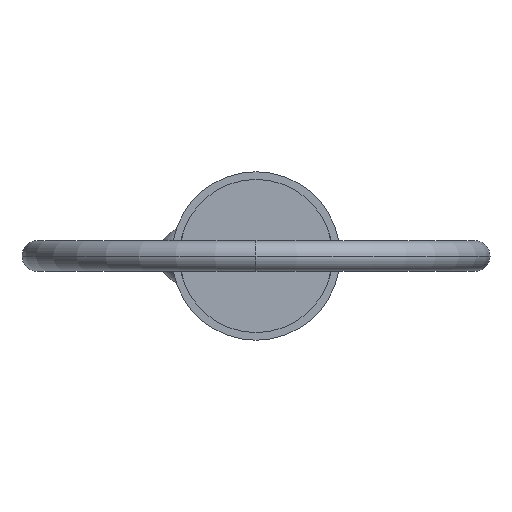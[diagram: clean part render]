
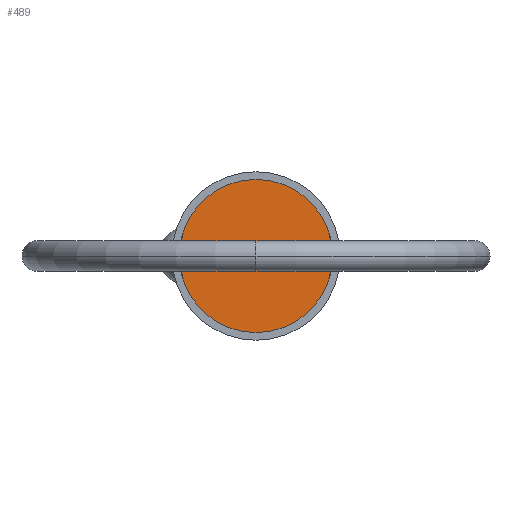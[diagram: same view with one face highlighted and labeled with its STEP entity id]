
A CAD part, left-side view. The second image highlights one B-rep face of the part: STEP entity #489.
In plain terms, the highlighted planar face has unit normal (-1, 0, 0).
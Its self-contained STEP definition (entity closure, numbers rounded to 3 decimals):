
#11 = CIRCLE ( 'NONE', #188, 11.115 ) ;
#36 = DIRECTION ( 'NONE',  ( 0., 0., -1. ) ) ;
#45 = CARTESIAN_POINT ( 'NONE',  ( 0., 0., 0. ) ) ;
#104 = FACE_OUTER_BOUND ( 'NONE', #244, .T. ) ;
#130 = DIRECTION ( 'NONE',  ( -1., 0., 0. ) ) ;
#149 = DIRECTION ( 'NONE',  ( 0., 0., -1. ) ) ;
#188 = AXIS2_PLACEMENT_3D ( 'NONE', #45, #201, #36 ) ;
#201 = DIRECTION ( 'NONE',  ( 1., 0., 0. ) ) ;
#232 = VERTEX_POINT ( 'NONE', #338 ) ;
#244 = EDGE_LOOP ( 'NONE', ( #973, #985 ) ) ;
#338 = CARTESIAN_POINT ( 'NONE',  ( 0., 0., 11.115 ) ) ;
#374 = CARTESIAN_POINT ( 'NONE',  ( 0., 0., -11.115 ) ) ;
#376 = CARTESIAN_POINT ( 'NONE',  ( 0., 0., 0. ) ) ;
#413 = AXIS2_PLACEMENT_3D ( 'NONE', #1056, #977, #149 ) ;
#438 = PLANE ( 'NONE',  #616 ) ;
#489 = ADVANCED_FACE ( 'NONE', ( #104 ), #438, .T. ) ;
#616 = AXIS2_PLACEMENT_3D ( 'NONE', #376, #130, #1041 ) ;
#700 = EDGE_CURVE ( 'NONE', #232, #919, #11, .T. ) ;
#882 = CIRCLE ( 'NONE', #413, 11.115 ) ;
#919 = VERTEX_POINT ( 'NONE', #374 ) ;
#973 = ORIENTED_EDGE ( 'NONE', *, *, #1069, .F. ) ;
#977 = DIRECTION ( 'NONE',  ( 1., 0., 0. ) ) ;
#985 = ORIENTED_EDGE ( 'NONE', *, *, #700, .F. ) ;
#1041 = DIRECTION ( 'NONE',  ( 0., 0., 1. ) ) ;
#1056 = CARTESIAN_POINT ( 'NONE',  ( 0., 0., 0. ) ) ;
#1069 = EDGE_CURVE ( 'NONE', #919, #232, #882, .T. ) ;
